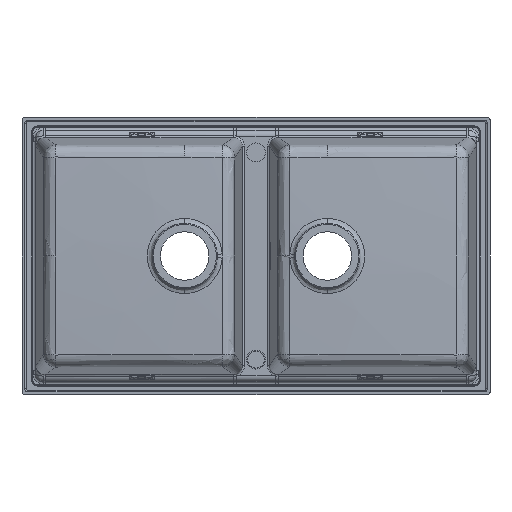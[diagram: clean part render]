
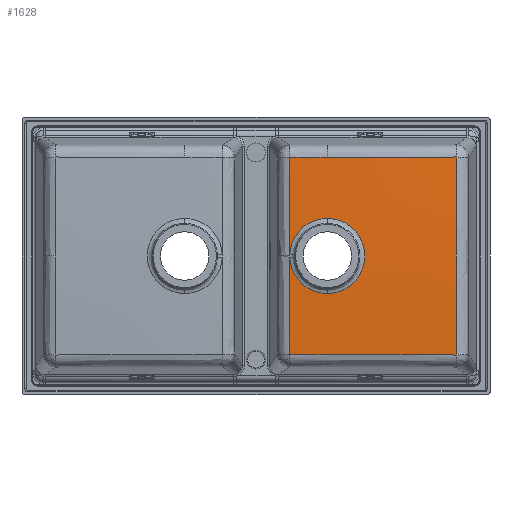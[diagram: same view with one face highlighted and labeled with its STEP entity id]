
A CAD part, front view. The second image highlights one B-rep face of the part: STEP entity #1628.
In plain terms, the highlighted free-form (B-spline) face has degree [3, 3] with [4, 4] control points.
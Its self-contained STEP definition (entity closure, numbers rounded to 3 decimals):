
#237 = AXIS2_PLACEMENT_3D ( 'NONE', #16315, #9507, #6946 ) ;
#514 = CIRCLE ( 'NONE', #2172, 4783.212 ) ;
#1335 = CIRCLE ( 'NONE', #4541, 68.956 ) ;
#1628 = ADVANCED_FACE ( 'NONE', ( #7071 ), #25070, .T. ) ;
#1881 = CARTESIAN_POINT ( 'NONE',  ( 62.121, -197.505, 3.822 ) ) ;
#1972 = DIRECTION ( 'NONE',  ( 0., 0.087, -0.996 ) ) ;
#2172 = AXIS2_PLACEMENT_3D ( 'NONE', #3906, #8324, #24064 ) ;
#2225 = CARTESIAN_POINT ( 'NONE',  ( 452.234, -189.782, 42.034 ) ) ;
#3767 = ORIENTED_EDGE ( 'NONE', *, *, #20807, .T. ) ;
#3906 = CARTESIAN_POINT ( 'NONE',  ( -354.764, 4567.504, 0. ) ) ;
#4423 = VERTEX_POINT ( 'NONE', #4784 ) ;
#4430 = CIRCLE ( 'NONE', #8387, 4783.212 ) ;
#4503 = ORIENTED_EDGE ( 'NONE', *, *, #13464, .T. ) ;
#4541 = AXIS2_PLACEMENT_3D ( 'NONE', #5405, #25384, #14072 ) ;
#4649 = DIRECTION ( 'NONE',  ( 0.087, 0.996, 0. ) ) ;
#4784 = CARTESIAN_POINT ( 'NONE',  ( 130.97, -194.576, 181.423 ) ) ;
#5405 = CARTESIAN_POINT ( 'NONE',  ( 130.97, -197.505, 0. ) ) ;
#5441 = VERTEX_POINT ( 'NONE', #1881 ) ;
#5638 = DIRECTION ( 'NONE',  ( 0.087, -0.996, 0. ) ) ;
#5927 = EDGE_CURVE ( 'NONE', #5441, #8754, #4430, .T. ) ;
#6260 = EDGE_LOOP ( 'NONE', ( #10698, #11961, #4503, #18690, #21386, #21211, #3767, #26056, #16964 ) ) ;
#6746 = AXIS2_PLACEMENT_3D ( 'NONE', #25620, #23177, #7535 ) ;
#6840 = EDGE_CURVE ( 'NONE', #14043, #21127, #514, .T. ) ;
#6848 = CARTESIAN_POINT ( 'NONE',  ( 31.992, -196.436, 167.003 ) ) ;
#6946 = DIRECTION ( 'NONE',  ( 0., 0., 1. ) ) ;
#7045 = CARTESIAN_POINT ( 'NONE',  ( 57.435, -196.666, -176.361 ) ) ;
#7071 = FACE_OUTER_BOUND ( 'NONE', #6260, .T. ) ;
#7149 = CARTESIAN_POINT ( 'NONE',  ( 242.751, -200.48, 107.715 ) ) ;
#7477 = CARTESIAN_POINT ( 'NONE',  ( 130.97, -197.505, -68.956 ) ) ;
#7535 = DIRECTION ( 'NONE',  ( 0., -0.996, -0.087 ) ) ;
#8084 = CARTESIAN_POINT ( 'NONE',  ( 130.97, -197.505, 68.956 ) ) ;
#8324 = DIRECTION ( 'NONE',  ( -0.996, -0.087, 0. ) ) ;
#8387 = AXIS2_PLACEMENT_3D ( 'NONE', #10153, #19328, #5638 ) ;
#8704 = CIRCLE ( 'NONE', #18594, 68.956 ) ;
#8754 = VERTEX_POINT ( 'NONE', #9720 ) ;
#9137 = DIRECTION ( 'NONE',  ( 0., 0.087, 0.996 ) ) ;
#9155 = CIRCLE ( 'NONE', #6746, 4770.481 ) ;
#9198 = CARTESIAN_POINT ( 'NONE',  ( 290.328, -184.633, 320.872 ) ) ;
#9233 = CARTESIAN_POINT ( 'NONE',  ( 130.97, 4557.752, -597.198 ) ) ;
#9394 = CARTESIAN_POINT ( 'NONE',  ( 262.457, -192.476, -241.774 ) ) ;
#9433 = CARTESIAN_POINT ( 'NONE',  ( 62.121, -197.505, -3.822 ) ) ;
#9453 = CARTESIAN_POINT ( 'NONE',  ( 368.707, -188.671, 181.94 ) ) ;
#9507 = DIRECTION ( 'NONE',  ( 0., 1., 0. ) ) ;
#9720 = CARTESIAN_POINT ( 'NONE',  ( 61.821, -194.077, 181.467 ) ) ;
#9933 = DIRECTION ( 'NONE',  ( 0., 0.996, -0.087 ) ) ;
#10153 = CARTESIAN_POINT ( 'NONE',  ( -354.764, 4567.504, 0. ) ) ;
#10424 = EDGE_CURVE ( 'NONE', #26479, #23266, #24897, .T. ) ;
#10650 = EDGE_CURVE ( 'NONE', #5441, #16668, #1335, .T. ) ;
#10675 = DIRECTION ( 'NONE',  ( 0., 1., 0. ) ) ;
#10698 = ORIENTED_EDGE ( 'NONE', *, *, #10424, .T. ) ;
#11277 = CIRCLE ( 'NONE', #17217, 4770.481 ) ;
#11301 = CARTESIAN_POINT ( 'NONE',  ( 130.97, 4557.752, 597.198 ) ) ;
#11532 = CARTESIAN_POINT ( 'NONE',  ( 189.168, -201.434, -103.688 ) ) ;
#11961 = ORIENTED_EDGE ( 'NONE', *, *, #16131, .T. ) ;
#13447 = CARTESIAN_POINT ( 'NONE',  ( 395.311, -190.038, -171.104 ) ) ;
#13464 = EDGE_CURVE ( 'NONE', #4423, #8754, #11277, .T. ) ;
#13608 = VERTEX_POINT ( 'NONE', #7477 ) ;
#14043 = VERTEX_POINT ( 'NONE', #24013 ) ;
#14072 = DIRECTION ( 'NONE',  ( 0., 0., 1. ) ) ;
#14145 = CIRCLE ( 'NONE', #237, 68.956 ) ;
#15708 = CARTESIAN_POINT ( 'NONE',  ( 112.269, -202.755, 32.709 ) ) ;
#15818 = EDGE_CURVE ( 'NONE', #14043, #26479, #19400, .T. ) ;
#16131 = EDGE_CURVE ( 'NONE', #23266, #4423, #9155, .T. ) ;
#16315 = CARTESIAN_POINT ( 'NONE',  ( 130.97, -197.505, 0. ) ) ;
#16668 = VERTEX_POINT ( 'NONE', #8084 ) ;
#16964 = ORIENTED_EDGE ( 'NONE', *, *, #15818, .T. ) ;
#17217 = AXIS2_PLACEMENT_3D ( 'NONE', #11301, #1972, #20005 ) ;
#17413 = CARTESIAN_POINT ( 'NONE',  ( 130.97, -197.505, 0. ) ) ;
#18085 = CARTESIAN_POINT ( 'NONE',  ( 527.729, -180.554, -100.209 ) ) ;
#18370 = CARTESIAN_POINT ( 'NONE',  ( 129.458, -187.862, -312.064 ) ) ;
#18594 = AXIS2_PLACEMENT_3D ( 'NONE', #17413, #10675, #26425 ) ;
#18690 = ORIENTED_EDGE ( 'NONE', *, *, #5927, .F. ) ;
#19328 = DIRECTION ( 'NONE',  ( -0.996, -0.087, 0. ) ) ;
#19400 = CIRCLE ( 'NONE', #26904, 4770.481 ) ;
#20005 = DIRECTION ( 'NONE',  ( 0., -0.996, -0.087 ) ) ;
#20292 = DIRECTION ( 'NONE',  ( -0.996, 0.087, 0. ) ) ;
#20337 = CARTESIAN_POINT ( 'NONE',  ( 161.206, -194.061, 244.131 ) ) ;
#20529 = CARTESIAN_POINT ( 'NONE',  ( 373.021, -191.143, 182.536 ) ) ;
#20581 = CARTESIAN_POINT ( 'NONE',  ( 783.541, 4552.907, 0. ) ) ;
#20807 = EDGE_CURVE ( 'NONE', #13608, #21127, #8704, .T. ) ;
#20926 = AXIS2_PLACEMENT_3D ( 'NONE', #20581, #20292, #4649 ) ;
#21127 = VERTEX_POINT ( 'NONE', #9433 ) ;
#21211 = ORIENTED_EDGE ( 'NONE', *, *, #27570, .T. ) ;
#21386 = ORIENTED_EDGE ( 'NONE', *, *, #10650, .T. ) ;
#22594 = CARTESIAN_POINT ( 'NONE',  ( -97.029, -191.754, 89.659 ) ) ;
#22877 = CARTESIAN_POINT ( 'NONE',  ( 320.865, -199.138, -30.836 ) ) ;
#23177 = DIRECTION ( 'NONE',  ( 0., 0.087, -0.996 ) ) ;
#23266 = VERTEX_POINT ( 'NONE', #9453 ) ;
#24013 = CARTESIAN_POINT ( 'NONE',  ( 61.821, -194.077, -181.467 ) ) ;
#24064 = DIRECTION ( 'NONE',  ( 0.087, -0.996, 0. ) ) ;
#24897 = CIRCLE ( 'NONE', #20926, 4763.167 ) ;
#24996 = CARTESIAN_POINT ( 'NONE',  ( 368.707, -188.671, -181.94 ) ) ;
#25070 =( BOUNDED_SURFACE ( )  B_SPLINE_SURFACE ( 3, 3, ( 
 ( #9198, #20529, #2225, #18085 ),
 ( #20337, #7149, #22877, #13447 ),
 ( #6848, #15708, #11532, #9394 ),
 ( #22594, #25124, #7045, #18370 ) ),
 .UNSPECIFIED., .F., .F., .F. ) 
 B_SPLINE_SURFACE_WITH_KNOTS ( ( 4, 4 ),
 ( 4, 4 ),
 ( 0., 1. ),
 ( 0., 1. ),
 .UNSPECIFIED. ) 
 GEOMETRIC_REPRESENTATION_ITEM ( )  RATIONAL_B_SPLINE_SURFACE ( (
 ( 1., 0.999, 0.999, 1.),
 ( 0.999, 0.998, 0.998, 0.999),
 ( 0.999, 0.998, 0.998, 0.999),
 ( 1., 0.999, 0.999, 1.) ) ) 
 REPRESENTATION_ITEM ( '' )  SURFACE ( )  );
#25124 = CARTESIAN_POINT ( 'NONE',  ( -18.137, -197.964, -42.318 ) ) ;
#25384 = DIRECTION ( 'NONE',  ( 0., 1., 0. ) ) ;
#25620 = CARTESIAN_POINT ( 'NONE',  ( 130.97, 4557.752, 597.198 ) ) ;
#26056 = ORIENTED_EDGE ( 'NONE', *, *, #6840, .F. ) ;
#26425 = DIRECTION ( 'NONE',  ( 0., 0., 1. ) ) ;
#26479 = VERTEX_POINT ( 'NONE', #24996 ) ;
#26904 = AXIS2_PLACEMENT_3D ( 'NONE', #9233, #9137, #9933 ) ;
#27570 = EDGE_CURVE ( 'NONE', #16668, #13608, #14145, .T. ) ;
